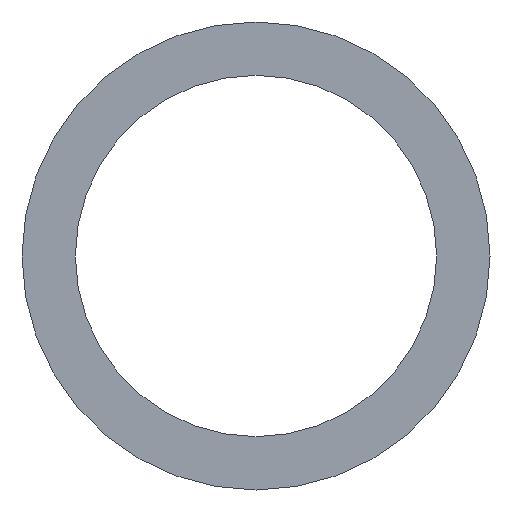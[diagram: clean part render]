
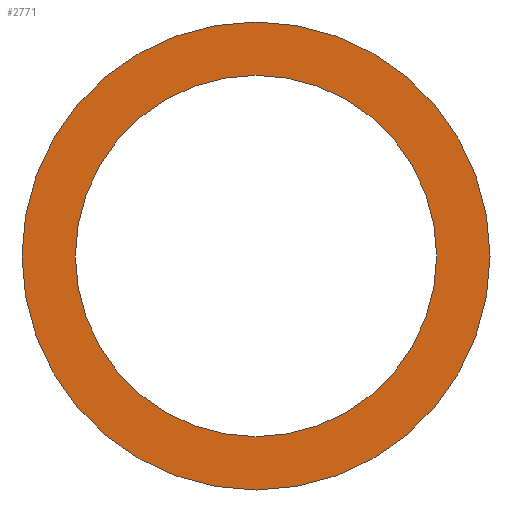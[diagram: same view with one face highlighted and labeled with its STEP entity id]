
A CAD part, front view. The second image highlights one B-rep face of the part: STEP entity #2771.
In plain terms, the highlighted planar face has unit normal (0, -1, 0).
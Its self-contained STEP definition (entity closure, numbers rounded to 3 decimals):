
#234 = VERTEX_POINT ( 'NONE', #5233 ) ;
#289 = VERTEX_POINT ( 'NONE', #4828 ) ;
#394 = CIRCLE ( 'NONE', #4058, 142.5 ) ;
#417 = AXIS2_PLACEMENT_3D ( 'NONE', #1985, #700, #4869 ) ;
#418 = EDGE_CURVE ( 'NONE', #234, #289, #3561, .T. ) ;
#427 = CARTESIAN_POINT ( 'NONE',  ( 0., -37.5, 0. ) ) ;
#700 = DIRECTION ( 'NONE',  ( 0., -1., 0. ) ) ;
#733 = CARTESIAN_POINT ( 'NONE',  ( 0., -37.5, 0. ) ) ;
#844 = FACE_OUTER_BOUND ( 'NONE', #4398, .T. ) ;
#1369 = EDGE_CURVE ( 'NONE', #3826, #4944, #4986, .T. ) ;
#1714 = FACE_BOUND ( 'NONE', #2785, .T. ) ;
#1985 = CARTESIAN_POINT ( 'NONE',  ( 0., -37.5, 0. ) ) ;
#2124 = ORIENTED_EDGE ( 'NONE', *, *, #1369, .F. ) ;
#2445 = CARTESIAN_POINT ( 'NONE',  ( 0., -37.5, 110. ) ) ;
#2707 = EDGE_CURVE ( 'NONE', #4944, #3826, #3227, .T. ) ;
#2766 = DIRECTION ( 'NONE',  ( 0., 0., -1. ) ) ;
#2771 = ADVANCED_FACE ( 'NONE', ( #1714, #844 ), #5298, .F. ) ;
#2785 = EDGE_LOOP ( 'NONE', ( #3852, #2124 ) ) ;
#2821 = DIRECTION ( 'NONE',  ( 0., 0., 1. ) ) ;
#2894 = AXIS2_PLACEMENT_3D ( 'NONE', #427, #4107, #3321 ) ;
#2897 = AXIS2_PLACEMENT_3D ( 'NONE', #2445, #3154, #2821 ) ;
#3154 = DIRECTION ( 'NONE',  ( 0., 1., 0. ) ) ;
#3227 = CIRCLE ( 'NONE', #417, 110. ) ;
#3231 = CARTESIAN_POINT ( 'NONE',  ( 0., -37.5, 0. ) ) ;
#3309 = EDGE_CURVE ( 'NONE', #289, #234, #394, .T. ) ;
#3321 = DIRECTION ( 'NONE',  ( 0., 0., -1. ) ) ;
#3470 = CARTESIAN_POINT ( 'NONE',  ( 0., -37.5, -110. ) ) ;
#3561 = CIRCLE ( 'NONE', #4221, 142.5 ) ;
#3562 = CARTESIAN_POINT ( 'NONE',  ( 0., -37.5, 110. ) ) ;
#3598 = DIRECTION ( 'NONE',  ( 0., -1., 0. ) ) ;
#3660 = DIRECTION ( 'NONE',  ( 0., -1., 0. ) ) ;
#3826 = VERTEX_POINT ( 'NONE', #3562 ) ;
#3852 = ORIENTED_EDGE ( 'NONE', *, *, #2707, .F. ) ;
#4018 = ORIENTED_EDGE ( 'NONE', *, *, #3309, .T. ) ;
#4058 = AXIS2_PLACEMENT_3D ( 'NONE', #733, #3598, #2766 ) ;
#4107 = DIRECTION ( 'NONE',  ( 0., -1., 0. ) ) ;
#4221 = AXIS2_PLACEMENT_3D ( 'NONE', #3231, #3660, #5300 ) ;
#4398 = EDGE_LOOP ( 'NONE', ( #4018, #4812 ) ) ;
#4812 = ORIENTED_EDGE ( 'NONE', *, *, #418, .T. ) ;
#4828 = CARTESIAN_POINT ( 'NONE',  ( 0., -37.5, -142.5 ) ) ;
#4869 = DIRECTION ( 'NONE',  ( 0., 0., -1. ) ) ;
#4944 = VERTEX_POINT ( 'NONE', #3470 ) ;
#4986 = CIRCLE ( 'NONE', #2894, 110. ) ;
#5233 = CARTESIAN_POINT ( 'NONE',  ( 0., -37.5, 142.5 ) ) ;
#5298 = PLANE ( 'NONE',  #2897 ) ;
#5300 = DIRECTION ( 'NONE',  ( 0., 0., -1. ) ) ;
